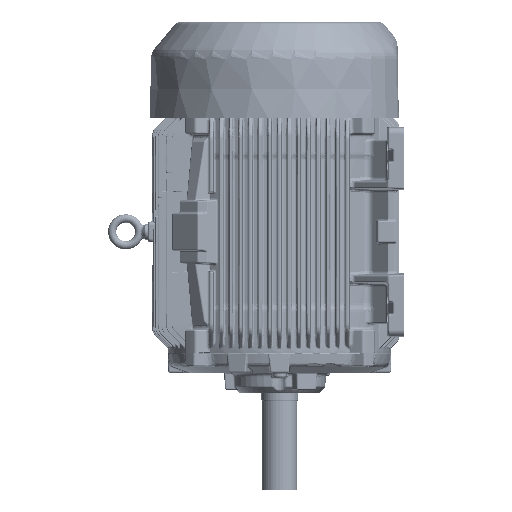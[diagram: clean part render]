
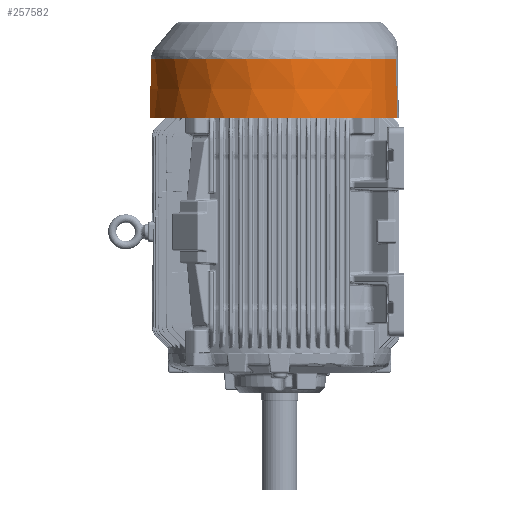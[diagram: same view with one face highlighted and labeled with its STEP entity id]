
A CAD part, left-side view. The second image highlights one B-rep face of the part: STEP entity #257582.
In plain terms, the highlighted conical face has half-angle 1 degrees and reference radius 263.606 mm.
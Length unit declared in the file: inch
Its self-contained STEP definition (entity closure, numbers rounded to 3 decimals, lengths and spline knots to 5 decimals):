
#250728=CARTESIAN_POINT('',(-4.38815,-9.45051,0.));
#250740=CARTESIAN_POINT('',(4.38815,-9.45051,0.));
#250746=CARTESIAN_POINT('',(-4.37264,-9.36644,
-4.74313));
#250747=CARTESIAN_POINT('',(-4.37393,-9.37342,
-4.34914));
#250748=CARTESIAN_POINT('',(-4.37648,-9.38726,
-3.5667));
#250749=CARTESIAN_POINT('',(-4.3802,-9.40736,
-2.43388));
#250750=CARTESIAN_POINT('',(-4.384,-9.42801,
-1.26935));
#250751=CARTESIAN_POINT('',(-4.38674,-9.44287,
-0.43116));
#250752=CARTESIAN_POINT('',(-4.38815,-9.45051,0.));
#250754=CARTESIAN_POINT('',(0.,0.,-4.74313));
#250755=DIRECTION('',(0.,0.,-1.));
#250756=DIRECTION('',(-0.423,-0.906,0.));
#250757=AXIS2_PLACEMENT_3D('',#250754,#250755,#250756);
#250759=CARTESIAN_POINT('',(4.38815,-9.45051,0.));
#250760=CARTESIAN_POINT('',(4.38698,-9.44414,
-0.35943));
#250761=CARTESIAN_POINT('',(4.38458,-9.43112,
-1.09362));
#250762=CARTESIAN_POINT('',(4.38086,-9.41098,
-2.22957));
#250763=CARTESIAN_POINT('',(4.37692,-9.38963,
-3.43405));
#250764=CARTESIAN_POINT('',(4.37409,-9.37432,
-4.29751));
#250765=CARTESIAN_POINT('',(4.37263,-9.36641,
-4.74313));
#250767=CARTESIAN_POINT('',(0.,0.,0.));
#250768=DIRECTION('',(0.,0.,1.));
#250769=DIRECTION('',(0.421,-0.907,0.));
#250770=AXIS2_PLACEMENT_3D('',#250767,#250768,#250769);
#255491=VERTEX_POINT('',#250728);
#255494=VERTEX_POINT('',#250746);
#255501=CARTESIAN_POINT('',(4.37263,-9.36641,
-4.74313));
#255502=VERTEX_POINT('',#255501);
#255504=VERTEX_POINT('',#250740);
#257570=CARTESIAN_POINT('',(0.,0.,-2.37157));
#257571=DIRECTION('',(0.,0.,1.));
#257572=DIRECTION('',(0.,1.,0.));
#257573=AXIS2_PLACEMENT_3D('',#257570,#257571,#257572);
#257574=CONICAL_SURFACE('',#257573,10.3782,1.);
#257575=ORIENTED_EDGE('',*,*,#257551,.F.);
#257576=ORIENTED_EDGE('',*,*,#257429,.T.);
#257578=ORIENTED_EDGE('',*,*,#257577,.F.);
#257579=ORIENTED_EDGE('',*,*,#257562,.T.);
#257580=EDGE_LOOP('',(#257575,#257576,#257578,#257579));
#257581=FACE_OUTER_BOUND('',#257580,.F.);
#257582=ADVANCED_FACE('',(#257581),#257574,.T.);
#250753=B_SPLINE_CURVE_WITH_KNOTS('',3,(#250746,#250747,#250748,#250749,#250750,
#250751,#250752),.UNSPECIFIED.,.F.,.F.,(4,1,1,1,4),(0.,0.25,0.5,0.75,
1.),.UNSPECIFIED.);
#250758=CIRCLE('',#250757,10.33681);
#250766=B_SPLINE_CURVE_WITH_KNOTS('',3,(#250759,#250760,#250761,#250762,#250763,
#250764,#250765),.UNSPECIFIED.,.F.,.F.,(4,1,1,1,4),(0.,0.25,0.5,0.75,
1.),.UNSPECIFIED.);
#250771=CIRCLE('',#250770,10.4196);
#257429=EDGE_CURVE('',#255494,#255502,#250758,.T.);
#257551=EDGE_CURVE('',#255494,#255491,#250753,.T.);
#257562=EDGE_CURVE('',#255504,#255491,#250771,.T.);
#257577=EDGE_CURVE('',#255504,#255502,#250766,.T.);
